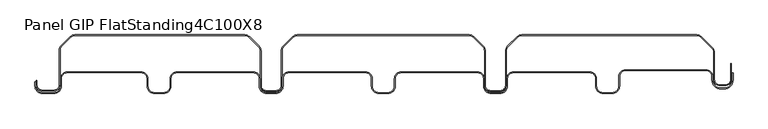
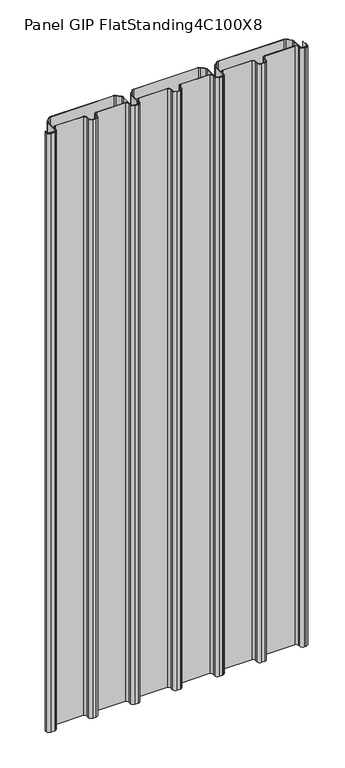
"""IFC4 building model written with IfcOpenShell, lengths in millimetres: plate geometry, Panel_GIP_FlatStanding_4C_100X8_Exiplast : Panel GIP FlatStanding4C100X8."""

from ifc_helpers import new_model, si_unit, point, frame_2d, origin, origin_with_axes, place, context, project, spatial, polyline, circle_curve, trimmed, segment, composite_curve, outline, extrude, source, transform, mapped, element, save


def panel_gip_flatstanding4c100x8_9774ab52(model_context):
    return source(origin(), model_context, "Body", "SweptSolid", [
        extrude(outline(composite_curve([segment(polyline([(514.0000002, 30.9053767), (514.0000002, 19.95)]), True, "CONTINUOUS"), segment(trimmed(circle_curve(frame_2d((500.8000002, 19.95)), 13.2), [point((514.0000002, 19.95))], [point((500.8000002, 6.75))], False, "CARTESIAN"), True, "CONTINUOUS"), segment(polyline([(500.8000002, 6.75), (495.8258043, 6.75)]), True, "CONTINUOUS"), segment(trimmed(circle_curve(frame_2d((495.8258043, 19.95)), 13.2), [point((495.8258043, 6.75))], [point((482.6258043, 19.95))], False, "CARTESIAN"), True, "CONTINUOUS"), segment(polyline([(482.6258043, 19.95), (482.6258043, 25.325)]), True, "CONTINUOUS"), segment(trimmed(circle_curve(frame_2d((473.8258043, 25.325)), 8.8), [point((482.6258043, 25.325))], [point((473.8258043, 34.125))], True, "CARTESIAN"), True, "CONTINUOUS"), segment(polyline([(473.8258043, 34.125), (354.3000002, 34.125)]), True, "CONTINUOUS"), segment(trimmed(circle_curve(frame_2d((354.3000002, 25.325)), 8.8), [point((354.3000002, 34.125))], [point((345.5000002, 25.325))], True, "CARTESIAN"), True, "CONTINUOUS"), segment(polyline([(345.5000002, 25.325), (345.5000002, 11.2)]), True, "CONTINUOUS"), segment(trimmed(circle_curve(frame_2d((334.3000002, 11.2)), 11.2), [point((345.5000002, 11.2))], [point((334.3000002, 0.0))], False, "CARTESIAN"), True, "CONTINUOUS"), segment(polyline([(334.3000002, 0.0), (321.2008043, 0.0)]), True, "CONTINUOUS"), segment(trimmed(circle_curve(frame_2d((321.2008043, 11.2)), 11.2), [point((321.2008043, 0.0))], [point((310.0008043, 11.2))], False, "CARTESIAN"), True, "CONTINUOUS"), segment(polyline([(310.0008043, 11.2), (310.0008043, 22.2)]), True, "CONTINUOUS"), segment(trimmed(circle_curve(frame_2d((301.2008043, 22.2)), 8.8), [point((310.0008043, 22.2))], [point((301.2008043, 31.0))], True, "CARTESIAN"), True, "CONTINUOUS"), segment(polyline([(301.2008043, 31.0), (187.8000002, 31.0)]), True, "CONTINUOUS"), segment(trimmed(circle_curve(frame_2d((187.8000002, 22.2)), 8.8), [point((187.8000002, 31.0))], [point((179.0000002, 22.2))], True, "CARTESIAN"), True, "CONTINUOUS"), segment(polyline([(179.0000002, 22.2), (179.0000002, 11.2)]), True, "CONTINUOUS"), segment(trimmed(circle_curve(frame_2d((167.8000002, 11.2)), 11.2), [point((179.0000002, 11.2))], [point((167.8000002, 0.0))], False, "CARTESIAN"), True, "CONTINUOUS"), segment(polyline([(167.8000002, 0.0), (154.7008043, 0.0)]), True, "CONTINUOUS"), segment(trimmed(circle_curve(frame_2d((154.7008043, 11.2)), 11.2), [point((154.7008043, 0.0))], [point((143.5008043, 11.2))], False, "CARTESIAN"), True, "CONTINUOUS"), segment(polyline([(143.5008043, 11.2), (143.5008043, 22.2)]), True, "CONTINUOUS"), segment(trimmed(circle_curve(frame_2d((134.7008043, 22.2)), 8.8), [point((143.5008043, 22.2))], [point((134.7008043, 31.0))], True, "CARTESIAN"), True, "CONTINUOUS"), segment(polyline([(134.7008043, 31.0), (21.3000002, 31.0)]), True, "CONTINUOUS"), segment(trimmed(circle_curve(frame_2d((21.3000002, 22.2)), 8.8), [point((21.3000002, 31.0))], [point((12.5000002, 22.2))], True, "CARTESIAN"), True, "CONTINUOUS"), segment(polyline([(12.5000002, 22.2), (12.5000002, 11.2)]), True, "CONTINUOUS"), segment(trimmed(circle_curve(frame_2d((1.3000002, 11.2)), 11.2), [point((12.5000002, 11.2))], [point((1.3000002, 0.0))], False, "CARTESIAN"), True, "CONTINUOUS"), segment(polyline([(1.3000002, 0.0), (-11.7991957, 0.0)]), True, "CONTINUOUS"), segment(trimmed(circle_curve(frame_2d((-11.7991957, 11.2)), 11.2), [point((-11.7991957, 0.0))], [point((-22.9991957, 11.2))], False, "CARTESIAN"), True, "CONTINUOUS"), segment(polyline([(-22.9991957, 11.2), (-22.9991957, 22.2)]), True, "CONTINUOUS"), segment(trimmed(circle_curve(frame_2d((-31.7991957, 22.2)), 8.8), [point((-22.9991957, 22.2))], [point((-31.7991957, 31.0))], True, "CARTESIAN"), True, "CONTINUOUS"), segment(polyline([(-31.7991957, 31.0), (-145.1999998, 31.0)]), True, "CONTINUOUS"), segment(trimmed(circle_curve(frame_2d((-145.1999998, 22.2)), 8.8), [point((-145.1999998, 31.0))], [point((-153.9999998, 22.2))], True, "CARTESIAN"), True, "CONTINUOUS"), segment(polyline([(-153.9999998, 22.2), (-153.9999998, 11.2)]), True, "CONTINUOUS"), segment(trimmed(circle_curve(frame_2d((-165.1999998, 11.2)), 11.2), [point((-153.9999998, 11.2))], [point((-165.1999998, 0.0))], False, "CARTESIAN"), True, "CONTINUOUS"), segment(polyline([(-165.1999998, 0.0), (-178.2991957, 0.0)]), True, "CONTINUOUS"), segment(trimmed(circle_curve(frame_2d((-178.2991957, 11.2)), 11.2), [point((-178.2991957, 0.0))], [point((-189.4991957, 11.2))], False, "CARTESIAN"), True, "CONTINUOUS"), segment(polyline([(-189.4991957, 11.2), (-189.4991957, 22.2)]), True, "CONTINUOUS"), segment(trimmed(circle_curve(frame_2d((-198.2991957, 22.2)), 8.8), [point((-189.4991957, 22.2))], [point((-198.2991957, 31.0))], True, "CARTESIAN"), True, "CONTINUOUS"), segment(polyline([(-198.2991957, 31.0), (-311.6999998, 31.0)]), True, "CONTINUOUS"), segment(trimmed(circle_curve(frame_2d((-311.6999998, 22.2)), 8.8), [point((-311.6999998, 31.0))], [point((-320.4999998, 22.2))], True, "CARTESIAN"), True, "CONTINUOUS"), segment(polyline([(-320.4999998, 22.2), (-320.4999998, 11.2)]), True, "CONTINUOUS"), segment(trimmed(circle_curve(frame_2d((-331.6999998, 11.2)), 11.2), [point((-320.4999998, 11.2))], [point((-331.6999998, 0.0))], False, "CARTESIAN"), True, "CONTINUOUS"), segment(polyline([(-331.6999998, 0.0), (-344.7991957, 0.0)]), True, "CONTINUOUS"), segment(trimmed(circle_curve(frame_2d((-344.7991957, 11.2)), 11.2), [point((-344.7991957, 0.0))], [point((-355.9991957, 11.2))], False, "CARTESIAN"), True, "CONTINUOUS"), segment(polyline([(-355.9991957, 11.2), (-355.9991957, 22.2)]), True, "CONTINUOUS"), segment(trimmed(circle_curve(frame_2d((-364.7991957, 22.2)), 8.8), [point((-355.9991957, 22.2))], [point((-364.7991957, 31.0))], True, "CARTESIAN"), True, "CONTINUOUS"), segment(polyline([(-364.7991957, 31.0), (-474.4499998, 31.0)]), True, "CONTINUOUS"), segment(trimmed(circle_curve(frame_2d((-474.4499998, 22.2)), 8.8), [point((-474.4499998, 31.0))], [point((-483.2499998, 22.2))], True, "CARTESIAN"), True, "CONTINUOUS"), segment(polyline([(-483.2499998, 22.2), (-483.2499998, 11.2)]), True, "CONTINUOUS"), segment(trimmed(circle_curve(frame_2d((-494.4499998, 11.2)), 11.2), [point((-483.2499998, 11.2))], [point((-494.4499998, 0.0))], False, "CARTESIAN"), True, "CONTINUOUS"), segment(polyline([(-494.4499998, 0.0), (-511.2991957, 0.0)]), True, "CONTINUOUS"), segment(trimmed(circle_curve(frame_2d((-511.2991957, 11.2)), 11.2), [point((-511.2991957, 0.0))], [point((-522.4991957, 11.2))], False, "CARTESIAN"), True, "CONTINUOUS"), segment(polyline([(-522.4991957, 11.2), (-522.4991957, 17.1245542), (-521.2991957, 17.1245542), (-521.2991957, 11.2)]), True, "CONTINUOUS"), segment(trimmed(circle_curve(frame_2d((-511.2991957, 11.2)), 10.0), [point((-521.2991957, 11.2))], [point((-511.2991957, 1.2))], True, "CARTESIAN"), True, "CONTINUOUS"), segment(polyline([(-511.2991957, 1.2), (-494.4499998, 1.2)]), True, "CONTINUOUS"), segment(trimmed(circle_curve(frame_2d((-494.4499998, 11.2)), 10.0), [point((-494.4499998, 1.2))], [point((-484.4499998, 11.2))], True, "CARTESIAN"), True, "CONTINUOUS"), segment(polyline([(-484.4499998, 11.2), (-484.4499998, 22.2)]), True, "CONTINUOUS"), segment(trimmed(circle_curve(frame_2d((-474.4499998, 22.2)), 10.0), [point((-484.4499998, 22.2))], [point((-474.4499998, 32.2))], False, "CARTESIAN"), True, "CONTINUOUS"), segment(polyline([(-474.4499998, 32.2), (-364.7991957, 32.2)]), True, "CONTINUOUS"), segment(trimmed(circle_curve(frame_2d((-364.7991957, 22.2)), 10.0), [point((-364.7991957, 32.2))], [point((-354.7991957, 22.2))], False, "CARTESIAN"), True, "CONTINUOUS"), segment(polyline([(-354.7991957, 22.2), (-354.7991957, 11.2)]), True, "CONTINUOUS"), segment(trimmed(circle_curve(frame_2d((-344.7991957, 11.2)), 10.0), [point((-354.7991957, 11.2))], [point((-344.7991957, 1.2))], True, "CARTESIAN"), True, "CONTINUOUS"), segment(polyline([(-344.7991957, 1.2), (-331.6999998, 1.2)]), True, "CONTINUOUS"), segment(trimmed(circle_curve(frame_2d((-331.6999998, 11.2)), 10.0), [point((-331.6999998, 1.2))], [point((-321.6999998, 11.2))], True, "CARTESIAN"), True, "CONTINUOUS"), segment(polyline([(-321.6999998, 11.2), (-321.6999998, 22.2)]), True, "CONTINUOUS"), segment(trimmed(circle_curve(frame_2d((-311.6999998, 22.2)), 10.0), [point((-321.6999998, 22.2))], [point((-311.6999998, 32.2))], False, "CARTESIAN"), True, "CONTINUOUS"), segment(polyline([(-311.6999998, 32.2), (-198.2991957, 32.2)]), True, "CONTINUOUS"), segment(trimmed(circle_curve(frame_2d((-198.2991957, 22.2)), 10.0), [point((-198.2991957, 32.2))], [point((-188.2991957, 22.2))], False, "CARTESIAN"), True, "CONTINUOUS"), segment(polyline([(-188.2991957, 22.2), (-188.2991957, 11.2)]), True, "CONTINUOUS"), segment(trimmed(circle_curve(frame_2d((-178.2991957, 11.2)), 10.0), [point((-188.2991957, 11.2))], [point((-178.2991957, 1.2))], True, "CARTESIAN"), True, "CONTINUOUS"), segment(polyline([(-178.2991957, 1.2), (-165.1999998, 1.2)]), True, "CONTINUOUS"), segment(trimmed(circle_curve(frame_2d((-165.1999998, 11.2)), 10.0), [point((-165.1999998, 1.2))], [point((-155.1999998, 11.2))], True, "CARTESIAN"), True, "CONTINUOUS"), segment(polyline([(-155.1999998, 11.2), (-155.1999998, 22.2)]), True, "CONTINUOUS"), segment(trimmed(circle_curve(frame_2d((-145.1999998, 22.2)), 10.0), [point((-155.1999998, 22.2))], [point((-145.1999998, 32.2))], False, "CARTESIAN"), True, "CONTINUOUS"), segment(polyline([(-145.1999998, 32.2), (-31.7991957, 32.2)]), True, "CONTINUOUS"), segment(trimmed(circle_curve(frame_2d((-31.7991957, 22.2)), 10.0), [point((-31.7991957, 32.2))], [point((-21.7991957, 22.2))], False, "CARTESIAN"), True, "CONTINUOUS"), segment(polyline([(-21.7991957, 22.2), (-21.7991957, 11.2)]), True, "CONTINUOUS"), segment(trimmed(circle_curve(frame_2d((-11.7991957, 11.2)), 10.0), [point((-21.7991957, 11.2))], [point((-11.7991957, 1.2))], True, "CARTESIAN"), True, "CONTINUOUS"), segment(polyline([(-11.7991957, 1.2), (1.3000002, 1.2)]), True, "CONTINUOUS"), segment(trimmed(circle_curve(frame_2d((1.3000002, 11.2)), 10.0), [point((1.3000002, 1.2))], [point((11.3000002, 11.2))], True, "CARTESIAN"), True, "CONTINUOUS"), segment(polyline([(11.3000002, 11.2), (11.3000002, 22.2)]), True, "CONTINUOUS"), segment(trimmed(circle_curve(frame_2d((21.3000002, 22.2)), 10.0), [point((11.3000002, 22.2))], [point((21.3000002, 32.2))], False, "CARTESIAN"), True, "CONTINUOUS"), segment(polyline([(21.3000002, 32.2), (134.7008043, 32.2)]), True, "CONTINUOUS"), segment(trimmed(circle_curve(frame_2d((134.7008043, 22.2)), 10.0), [point((134.7008043, 32.2))], [point((144.7008043, 22.2))], False, "CARTESIAN"), True, "CONTINUOUS"), segment(polyline([(144.7008043, 22.2), (144.7008043, 11.2)]), True, "CONTINUOUS"), segment(trimmed(circle_curve(frame_2d((154.7008043, 11.2)), 10.0), [point((144.7008043, 11.2))], [point((154.7008043, 1.2))], True, "CARTESIAN"), True, "CONTINUOUS"), segment(polyline([(154.7008043, 1.2), (167.8000002, 1.2)]), True, "CONTINUOUS"), segment(trimmed(circle_curve(frame_2d((167.8000002, 11.2)), 10.0), [point((167.8000002, 1.2))], [point((177.8000002, 11.2))], True, "CARTESIAN"), True, "CONTINUOUS"), segment(polyline([(177.8000002, 11.2), (177.8000002, 22.2)]), True, "CONTINUOUS"), segment(trimmed(circle_curve(frame_2d((187.8000002, 22.2)), 10.0), [point((177.8000002, 22.2))], [point((187.8000002, 32.2))], False, "CARTESIAN"), True, "CONTINUOUS"), segment(polyline([(187.8000002, 32.2), (301.2008043, 32.2)]), True, "CONTINUOUS"), segment(trimmed(circle_curve(frame_2d((301.2008043, 22.2)), 10.0), [point((301.2008043, 32.2))], [point((311.2008043, 22.2))], False, "CARTESIAN"), True, "CONTINUOUS"), segment(polyline([(311.2008043, 22.2), (311.2008043, 11.2)]), True, "CONTINUOUS"), segment(trimmed(circle_curve(frame_2d((321.2008043, 11.2)), 10.0), [point((311.2008043, 11.2))], [point((321.2008043, 1.2))], True, "CARTESIAN"), True, "CONTINUOUS"), segment(polyline([(321.2008043, 1.2), (334.3000002, 1.2)]), True, "CONTINUOUS"), segment(trimmed(circle_curve(frame_2d((334.3000002, 11.2)), 10.0), [point((334.3000002, 1.2))], [point((344.3000002, 11.2))], True, "CARTESIAN"), True, "CONTINUOUS"), segment(polyline([(344.3000002, 11.2), (344.3000002, 25.325)]), True, "CONTINUOUS"), segment(trimmed(circle_curve(frame_2d((354.3000002, 25.325)), 10.0), [point((344.3000002, 25.325))], [point((354.3000002, 35.325))], False, "CARTESIAN"), True, "CONTINUOUS"), segment(polyline([(354.3000002, 35.325), (473.8258043, 35.325)]), True, "CONTINUOUS"), segment(trimmed(circle_curve(frame_2d((473.8258043, 25.325)), 10.0), [point((473.8258043, 35.325))], [point((483.8258043, 25.325))], False, "CARTESIAN"), True, "CONTINUOUS"), segment(polyline([(483.8258043, 25.325), (483.8258043, 19.95)]), True, "CONTINUOUS"), segment(trimmed(circle_curve(frame_2d((495.8258043, 19.95)), 12.0), [point((483.8258043, 19.95))], [point((495.8258043, 7.95))], True, "CARTESIAN"), True, "CONTINUOUS"), segment(polyline([(495.8258043, 7.95), (500.8000002, 7.95)]), True, "CONTINUOUS"), segment(trimmed(circle_curve(frame_2d((500.8000002, 19.95)), 12.0), [point((500.8000002, 7.95))], [point((512.8000002, 19.95))], True, "CARTESIAN"), True, "CONTINUOUS"), segment(polyline([(512.8000002, 19.95), (512.8000002, 30.9053767), (514.0000002, 30.9053767)]), True, "CONTINUOUS")], self_intersect=False)), origin_with_axes(), (0.0, 0.0, 1.0), 2500.0),
        extrude(outline(composite_curve([segment(polyline([(511.5781567, 44.8512381), (511.5781567, 20.9475016)]), True, "CONTINUOUS"), segment(trimmed(circle_curve(frame_2d((502.3781567, 20.9475016)), 9.2), [point((511.5781567, 20.9475016))], [point((502.3781567, 11.7475016))], False, "CARTESIAN"), True, "CONTINUOUS"), segment(polyline([(502.3781567, 11.7475016), (494.3564676, 11.7475016)]), True, "CONTINUOUS"), segment(trimmed(circle_curve(frame_2d((494.3564676, 20.9475016)), 9.2), [point((494.3564676, 11.7475016))], [point((485.1564676, 20.9475016))], False, "CARTESIAN"), True, "CONTINUOUS"), segment(polyline([(485.1564676, 20.9475016), (485.1564676, 61.143427)]), True, "CONTINUOUS"), segment(trimmed(circle_curve(frame_2d((476.3564676, 61.143427)), 8.8), [point((485.1564676, 61.143427))], [point((482.5790072, 67.3659667))], True, "CARTESIAN"), True, "CONTINUOUS"), segment(polyline([(482.5790072, 67.3659667), (466.2493716, 83.6956023)]), True, "CONTINUOUS"), segment(trimmed(circle_curve(frame_2d((460.0268319, 77.4730627)), 8.8), [point((466.2493716, 83.6956023))], [point((460.0268319, 86.2730627))], True, "CARTESIAN"), True, "CONTINUOUS"), segment(polyline([(460.0268319, 86.2730627), (200.2702923, 86.2730627)]), True, "CONTINUOUS"), segment(trimmed(circle_curve(frame_2d((200.2702923, 77.4730627)), 8.8), [point((200.2702923, 86.2730627))], [point((194.0477526, 83.6956023))], True, "CARTESIAN"), True, "CONTINUOUS"), segment(polyline([(194.0477526, 83.6956023), (179.905617, 69.5534667)]), True, "CONTINUOUS"), segment(trimmed(circle_curve(frame_2d((186.1281567, 63.330927)), 8.8), [point((179.905617, 69.5534667))], [point((177.3281567, 63.330927))], True, "CARTESIAN"), True, "CONTINUOUS"), segment(polyline([(177.3281567, 63.330927), (177.3281567, 12.1975016)]), True, "CONTINUOUS"), segment(trimmed(circle_curve(frame_2d((168.1281567, 12.1975016)), 9.2), [point((177.3281567, 12.1975016))], [point((168.1281567, 2.9975016))], False, "CARTESIAN"), True, "CONTINUOUS"), segment(polyline([(168.1281567, 2.9975016), (154.1689676, 2.9975016)]), True, "CONTINUOUS"), segment(trimmed(circle_curve(frame_2d((154.1689676, 12.1975016)), 9.2), [point((154.1689676, 2.9975016))], [point((144.9689676, 12.1975016))], False, "CARTESIAN"), True, "CONTINUOUS"), segment(polyline([(144.9689676, 12.1975016), (144.9689676, 63.330927)]), True, "CONTINUOUS"), segment(trimmed(circle_curve(frame_2d((136.1689676, 63.330927)), 8.8), [point((144.9689676, 63.330927))], [point((142.3915072, 69.5534667))], True, "CARTESIAN"), True, "CONTINUOUS"), segment(polyline([(142.3915072, 69.5534667), (128.2493716, 83.6956023)]), True, "CONTINUOUS"), segment(trimmed(circle_curve(frame_2d((122.0268319, 77.4730627)), 8.8), [point((128.2493716, 83.6956023))], [point((122.0268319, 86.2730627))], True, "CARTESIAN"), True, "CONTINUOUS"), segment(polyline([(122.0268319, 86.2730627), (-132.7297077, 86.2730627)]), True, "CONTINUOUS"), segment(trimmed(circle_curve(frame_2d((-132.7297077, 77.4730627)), 8.8), [point((-132.7297077, 86.2730627))], [point((-138.9522474, 83.6956023))], True, "CARTESIAN"), True, "CONTINUOUS"), segment(polyline([(-138.9522474, 83.6956023), (-153.094383, 69.5534667)]), True, "CONTINUOUS"), segment(trimmed(circle_curve(frame_2d((-146.8718433, 63.330927)), 8.8), [point((-153.094383, 69.5534667))], [point((-155.6718433, 63.330927))], True, "CARTESIAN"), True, "CONTINUOUS"), segment(polyline([(-155.6718433, 63.330927), (-155.6718433, 12.1975016)]), True, "CONTINUOUS"), segment(trimmed(circle_curve(frame_2d((-164.8718433, 12.1975016)), 9.2), [point((-155.6718433, 12.1975016))], [point((-164.8718433, 2.9975016))], False, "CARTESIAN"), True, "CONTINUOUS"), segment(polyline([(-164.8718433, 2.9975016), (-178.8310324, 2.9975016)]), True, "CONTINUOUS"), segment(trimmed(circle_curve(frame_2d((-178.8310324, 12.1975016)), 9.2), [point((-178.8310324, 2.9975016))], [point((-188.0310324, 12.1975016))], False, "CARTESIAN"), True, "CONTINUOUS"), segment(polyline([(-188.0310324, 12.1975016), (-188.0310324, 63.330927)]), True, "CONTINUOUS"), segment(trimmed(circle_curve(frame_2d((-196.8310324, 63.330927)), 8.8), [point((-188.0310324, 63.330927))], [point((-190.6084928, 69.5534667))], True, "CARTESIAN"), True, "CONTINUOUS"), segment(polyline([(-190.6084928, 69.5534667), (-204.7506284, 83.6956023)]), True, "CONTINUOUS"), segment(trimmed(circle_curve(frame_2d((-210.9731681, 77.4730627)), 8.8), [point((-204.7506284, 83.6956023))], [point((-210.9731681, 86.2730627))], True, "CARTESIAN"), True, "CONTINUOUS"), segment(polyline([(-210.9731681, 86.2730627), (-463.2111528, 86.2730627)]), True, "CONTINUOUS"), segment(trimmed(circle_curve(frame_2d((-463.2111528, 77.4730627)), 8.8), [point((-463.2111528, 86.2730627))], [point((-469.4336925, 83.6956023))], True, "CARTESIAN"), True, "CONTINUOUS"), segment(polyline([(-469.4336925, 83.6956023), (-482.6383281, 70.4909667)]), True, "CONTINUOUS"), segment(trimmed(circle_curve(frame_2d((-476.4157884, 64.268427)), 8.8), [point((-482.6383281, 70.4909667))], [point((-485.2157884, 64.268427))], True, "CARTESIAN"), True, "CONTINUOUS"), segment(polyline([(-485.2157884, 64.268427), (-485.2157884, 12.8934417)]), True, "CONTINUOUS"), segment(trimmed(circle_curve(frame_2d((-494.4157884, 12.8934417)), 9.2), [point((-485.2157884, 12.8934417))], [point((-494.4157884, 3.6934417))], False, "CARTESIAN"), True, "CONTINUOUS"), segment(polyline([(-494.4157884, 3.6934417), (-511.4344936, 3.6934417)]), True, "CONTINUOUS"), segment(trimmed(circle_curve(frame_2d((-511.4344936, 12.8934417)), 9.2), [point((-511.4344936, 3.6934417))], [point((-520.6344936, 12.8934417))], False, "CARTESIAN"), True, "CONTINUOUS"), segment(polyline([(-520.6344936, 12.8934417), (-520.6344936, 19.7659281), (-519.4344936, 19.7659281), (-519.4344936, 12.8934417)]), True, "CONTINUOUS"), segment(trimmed(circle_curve(frame_2d((-511.4344936, 12.8934417)), 8.0), [point((-519.4344936, 12.8934417))], [point((-511.4344936, 4.8934417))], True, "CARTESIAN"), True, "CONTINUOUS"), segment(polyline([(-511.4344936, 4.8934417), (-494.4157884, 4.8934417)]), True, "CONTINUOUS"), segment(trimmed(circle_curve(frame_2d((-494.4157884, 12.8934417)), 8.0), [point((-494.4157884, 4.8934417))], [point((-486.4157884, 12.8934417))], True, "CARTESIAN"), True, "CONTINUOUS"), segment(polyline([(-486.4157884, 12.8934417), (-486.4157884, 64.268427)]), True, "CONTINUOUS"), segment(trimmed(circle_curve(frame_2d((-476.4157884, 64.268427)), 10.0), [point((-486.4157884, 64.268427))], [point((-483.4868562, 71.3394949))], False, "CARTESIAN"), True, "CONTINUOUS"), segment(polyline([(-483.4868562, 71.3394949), (-470.2822206, 84.5441305)]), True, "CONTINUOUS"), segment(trimmed(circle_curve(frame_2d((-463.2111528, 77.4730627)), 10.0), [point((-470.2822206, 84.5441305))], [point((-463.2111528, 87.4730627))], False, "CARTESIAN"), True, "CONTINUOUS"), segment(polyline([(-463.2111528, 87.4730627), (-210.9731681, 87.4730627)]), True, "CONTINUOUS"), segment(trimmed(circle_curve(frame_2d((-210.9731681, 77.4730627)), 10.0), [point((-210.9731681, 87.4730627))], [point((-203.9021002, 84.5441305))], False, "CARTESIAN"), True, "CONTINUOUS"), segment(polyline([(-203.9021002, 84.5441305), (-189.7599646, 70.4019949)]), True, "CONTINUOUS"), segment(trimmed(circle_curve(frame_2d((-196.8310324, 63.330927)), 10.0), [point((-189.7599646, 70.4019949))], [point((-186.8310324, 63.330927))], False, "CARTESIAN"), True, "CONTINUOUS"), segment(polyline([(-186.8310324, 63.330927), (-186.8310324, 12.1975016)]), True, "CONTINUOUS"), segment(trimmed(circle_curve(frame_2d((-178.8310324, 12.1975016)), 8.0), [point((-186.8310324, 12.1975016))], [point((-178.8310324, 4.1975016))], True, "CARTESIAN"), True, "CONTINUOUS"), segment(polyline([(-178.8310324, 4.1975016), (-164.8718433, 4.1975016)]), True, "CONTINUOUS"), segment(trimmed(circle_curve(frame_2d((-164.8718433, 12.1975016)), 8.0), [point((-164.8718433, 4.1975016))], [point((-156.8718433, 12.1975016))], True, "CARTESIAN"), True, "CONTINUOUS"), segment(polyline([(-156.8718433, 12.1975016), (-156.8718433, 63.330927)]), True, "CONTINUOUS"), segment(trimmed(circle_curve(frame_2d((-146.8718433, 63.330927)), 10.0), [point((-156.8718433, 63.330927))], [point((-153.9429111, 70.4019949))], False, "CARTESIAN"), True, "CONTINUOUS"), segment(polyline([(-153.9429111, 70.4019949), (-139.8007755, 84.5441305)]), True, "CONTINUOUS"), segment(trimmed(circle_curve(frame_2d((-132.7297077, 77.4730627)), 10.0), [point((-139.8007755, 84.5441305))], [point((-132.7297077, 87.4730627))], False, "CARTESIAN"), True, "CONTINUOUS"), segment(polyline([(-132.7297077, 87.4730627), (122.0268319, 87.4730627)]), True, "CONTINUOUS"), segment(trimmed(circle_curve(frame_2d((122.0268319, 77.4730627)), 10.0), [point((122.0268319, 87.4730627))], [point((129.0978998, 84.5441305))], False, "CARTESIAN"), True, "CONTINUOUS"), segment(polyline([(129.0978998, 84.5441305), (143.2400354, 70.4019949)]), True, "CONTINUOUS"), segment(trimmed(circle_curve(frame_2d((136.1689676, 63.330927)), 10.0), [point((143.2400354, 70.4019949))], [point((146.1689676, 63.330927))], False, "CARTESIAN"), True, "CONTINUOUS"), segment(polyline([(146.1689676, 63.330927), (146.1689676, 12.1975016)]), True, "CONTINUOUS"), segment(trimmed(circle_curve(frame_2d((154.1689676, 12.1975016)), 8.0), [point((146.1689676, 12.1975016))], [point((154.1689676, 4.1975016))], True, "CARTESIAN"), True, "CONTINUOUS"), segment(polyline([(154.1689676, 4.1975016), (168.1281567, 4.1975016)]), True, "CONTINUOUS"), segment(trimmed(circle_curve(frame_2d((168.1281567, 12.1975016)), 8.0), [point((168.1281567, 4.1975016))], [point((176.1281567, 12.1975016))], True, "CARTESIAN"), True, "CONTINUOUS"), segment(polyline([(176.1281567, 12.1975016), (176.1281567, 63.330927)]), True, "CONTINUOUS"), segment(trimmed(circle_curve(frame_2d((186.1281567, 63.330927)), 10.0), [point((176.1281567, 63.330927))], [point((179.0570889, 70.4019949))], False, "CARTESIAN"), True, "CONTINUOUS"), segment(polyline([(179.0570889, 70.4019949), (193.1992245, 84.5441305)]), True, "CONTINUOUS"), segment(trimmed(circle_curve(frame_2d((200.2702923, 77.4730627)), 10.0), [point((193.1992245, 84.5441305))], [point((200.2702923, 87.4730627))], False, "CARTESIAN"), True, "CONTINUOUS"), segment(polyline([(200.2702923, 87.4730627), (460.0268319, 87.4730627)]), True, "CONTINUOUS"), segment(trimmed(circle_curve(frame_2d((460.0268319, 77.4730627)), 10.0), [point((460.0268319, 87.4730627))], [point((467.0978998, 84.5441305))], False, "CARTESIAN"), True, "CONTINUOUS"), segment(polyline([(467.0978998, 84.5441305), (483.4275354, 68.2144949)]), True, "CONTINUOUS"), segment(trimmed(circle_curve(frame_2d((476.3564676, 61.143427)), 10.0), [point((483.4275354, 68.2144949))], [point((486.3564676, 61.143427))], False, "CARTESIAN"), True, "CONTINUOUS"), segment(polyline([(486.3564676, 61.143427), (486.3564676, 20.9475016)]), True, "CONTINUOUS"), segment(trimmed(circle_curve(frame_2d((494.3564676, 20.9475016)), 8.0), [point((486.3564676, 20.9475016))], [point((494.3564676, 12.9475016))], True, "CARTESIAN"), True, "CONTINUOUS"), segment(polyline([(494.3564676, 12.9475016), (502.3781567, 12.9475016)]), True, "CONTINUOUS"), segment(trimmed(circle_curve(frame_2d((502.3781567, 20.9475016)), 8.0), [point((502.3781567, 12.9475016))], [point((510.3781567, 20.9475016))], True, "CARTESIAN"), True, "CONTINUOUS"), segment(polyline([(510.3781567, 20.9475016), (510.3781567, 44.8512381), (511.5781567, 44.8512381)]), True, "CONTINUOUS")], self_intersect=False)), origin_with_axes(), (0.0, 0.0, 1.0), 2500.0),
    ])


if __name__ == "__main__":
    model = new_model("IFC4")
    model_context = context("Model", 3, world=origin())
    ifc_project = project(units=[si_unit("LENGTHUNIT", "METRE", prefix="MILLI")], contexts=[model_context])
    site = spatial("IfcSite", under=ifc_project)
    building = spatial("IfcBuilding", under=site)
    placement = place(None, origin())
    panel_gip_flatstanding4c100x8_shape = panel_gip_flatstanding4c100x8_9774ab52(model_context)
    element("IfcPlate", 1, ObjectType="Panel_GIP_FlatStanding_4C_100X8_Exiplast : Panel GIP FlatStanding4C100X8", at=placement, inside=building, context=model_context, shape_type="MappedRepresentation", body=[
        mapped(panel_gip_flatstanding4c100x8_shape, transform((0.0, 0.0, 0.0), x_axis=(1.0, 0.0, 0.0), y_axis=(0.0, 1.0, 0.0), z_axis=(0.0, 0.0, 1.0))),
    ])
    save(model, "model.ifc")
